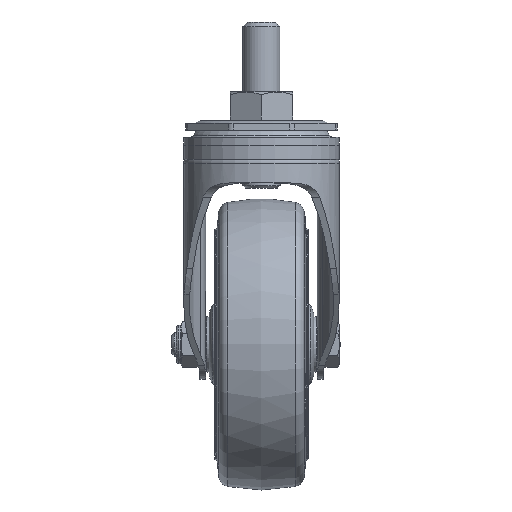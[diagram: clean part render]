
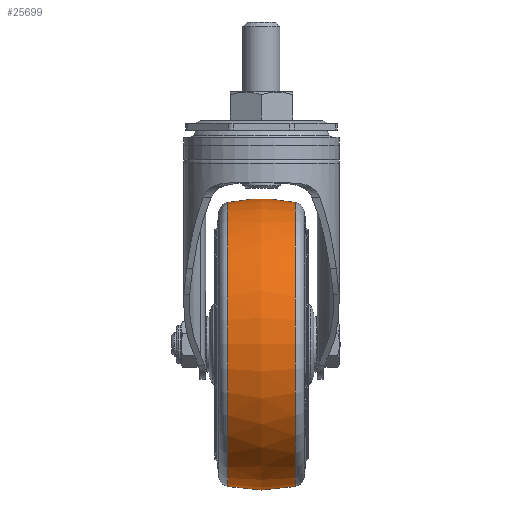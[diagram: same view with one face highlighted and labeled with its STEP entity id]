
A CAD part, left-side view. The second image highlights one B-rep face of the part: STEP entity #25699.
In plain terms, the highlighted free-form (B-spline) face has degree [2, 2] with [3, 9] control points.
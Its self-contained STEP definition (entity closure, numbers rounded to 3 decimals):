
#15=(
BOUNDED_SURFACE()
B_SPLINE_SURFACE(2,2,((#49455,#49456,#49457,#49458,#49459,#49460,#49461,
#49462,#49463),(#49464,#49465,#49466,#49467,#49468,#49469,#49470,#49471,
#49472),(#49473,#49474,#49475,#49476,#49477,#49478,#49479,#49480,#49481)),
 .UNSPECIFIED.,.F.,.T.,.F.)
B_SPLINE_SURFACE_WITH_KNOTS((3,3),(3,2,2,2,3),(-0.208,0.208),
(-3.142,-1.571,0.,1.571,3.142),
 .UNSPECIFIED.)
GEOMETRIC_REPRESENTATION_ITEM()
RATIONAL_B_SPLINE_SURFACE(((1.,0.707,1.,0.707,1.,
0.707,1.,0.707,1.),(0.978,0.692,
0.978,0.692,0.978,0.692,0.978,
0.692,0.978),(1.,0.707,1.,0.707,
1.,0.707,1.,0.707,1.)))
REPRESENTATION_ITEM('')
SURFACE()
);
#7528=FACE_OUTER_BOUND('',#9085,.T.);
#9085=EDGE_LOOP('',(#23470,#23471,#23472,#23473));
#9516=CIRCLE('',#27085,60.992);
#9517=CIRCLE('',#27086,70.);
#9518=CIRCLE('',#27087,60.992);
#12047=VERTEX_POINT('',#49482);
#12048=VERTEX_POINT('',#49484);
#15866=EDGE_CURVE('',#12047,#12047,#9516,.T.);
#15867=EDGE_CURVE('',#12047,#12048,#9517,.T.);
#15868=EDGE_CURVE('',#12048,#12048,#9518,.T.);
#23470=ORIENTED_EDGE('',*,*,#15866,.F.);
#23471=ORIENTED_EDGE('',*,*,#15867,.T.);
#23472=ORIENTED_EDGE('',*,*,#15868,.T.);
#23473=ORIENTED_EDGE('',*,*,#15867,.F.);
#25699=ADVANCED_FACE('',(#7528),#15,.F.);
#27085=AXIS2_PLACEMENT_3D('',#49483,#31645,#31646);
#27086=AXIS2_PLACEMENT_3D('',#49485,#31647,#31648);
#27087=AXIS2_PLACEMENT_3D('',#49486,#31649,#31650);
#31645=DIRECTION('center_axis',(0.,-1.,0.));
#31646=DIRECTION('ref_axis',(0.,0.,
-1.));
#31647=DIRECTION('center_axis',(-1.,0.,0.));
#31648=DIRECTION('ref_axis',(0.,0.,
1.));
#31649=DIRECTION('center_axis',(0.,-1.,0.));
#31650=DIRECTION('ref_axis',(0.,0.,
-1.));
#49455=CARTESIAN_POINT('Ctrl Pts',(32.,14.451,-35.308));
#49456=CARTESIAN_POINT('Ctrl Pts',(-28.992,14.451,-35.308));
#49457=CARTESIAN_POINT('Ctrl Pts',(-28.992,14.451,-96.3));
#49458=CARTESIAN_POINT('Ctrl Pts',(-28.992,14.451,-157.292));
#49459=CARTESIAN_POINT('Ctrl Pts',(32.,14.451,-157.292));
#49460=CARTESIAN_POINT('Ctrl Pts',(92.992,14.451,-157.292));
#49461=CARTESIAN_POINT('Ctrl Pts',(92.992,14.451,-96.3));
#49462=CARTESIAN_POINT('Ctrl Pts',(92.992,14.451,-35.308));
#49463=CARTESIAN_POINT('Ctrl Pts',(32.,14.451,-35.308));
#49464=CARTESIAN_POINT('Ctrl Pts',(32.,0.,
-32.259));
#49465=CARTESIAN_POINT('Ctrl Pts',(-32.041,0.,
-32.259));
#49466=CARTESIAN_POINT('Ctrl Pts',(-32.041,0.,
-96.3));
#49467=CARTESIAN_POINT('Ctrl Pts',(-32.041,0.,
-160.341));
#49468=CARTESIAN_POINT('Ctrl Pts',(32.,0.,
-160.341));
#49469=CARTESIAN_POINT('Ctrl Pts',(96.041,0.,
-160.341));
#49470=CARTESIAN_POINT('Ctrl Pts',(96.041,0.,
-96.3));
#49471=CARTESIAN_POINT('Ctrl Pts',(96.041,0.,
-32.259));
#49472=CARTESIAN_POINT('Ctrl Pts',(32.,0.,
-32.259));
#49473=CARTESIAN_POINT('Ctrl Pts',(32.,-14.451,-35.308));
#49474=CARTESIAN_POINT('Ctrl Pts',(-28.992,-14.451,
-35.308));
#49475=CARTESIAN_POINT('Ctrl Pts',(-28.992,-14.451,-96.3));
#49476=CARTESIAN_POINT('Ctrl Pts',(-28.992,-14.451,
-157.292));
#49477=CARTESIAN_POINT('Ctrl Pts',(32.,-14.451,-157.292));
#49478=CARTESIAN_POINT('Ctrl Pts',(92.992,-14.451,-157.292));
#49479=CARTESIAN_POINT('Ctrl Pts',(92.992,-14.451,-96.3));
#49480=CARTESIAN_POINT('Ctrl Pts',(92.992,-14.451,-35.308));
#49481=CARTESIAN_POINT('Ctrl Pts',(32.,-14.451,-35.308));
#49482=CARTESIAN_POINT('',(32.,-14.451,-35.308));
#49483=CARTESIAN_POINT('Origin',(32.,-14.451,-96.3));
#49484=CARTESIAN_POINT('',(32.,14.451,-35.308));
#49485=CARTESIAN_POINT('Origin',(32.,0.,
-103.8));
#49486=CARTESIAN_POINT('Origin',(32.,14.451,-96.3));
